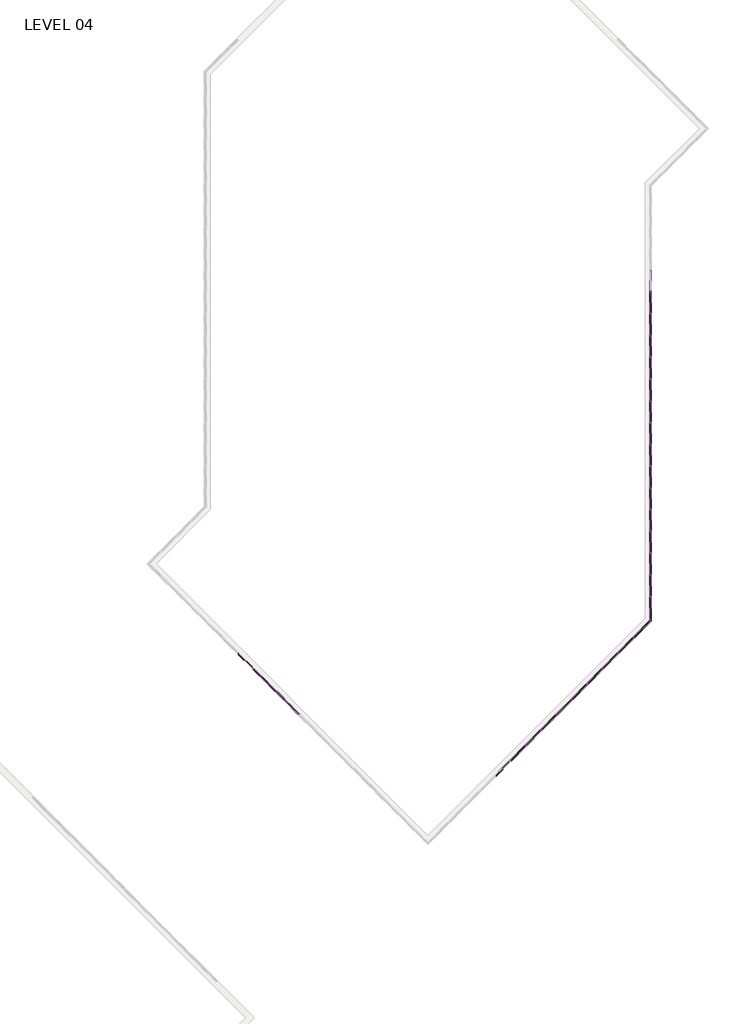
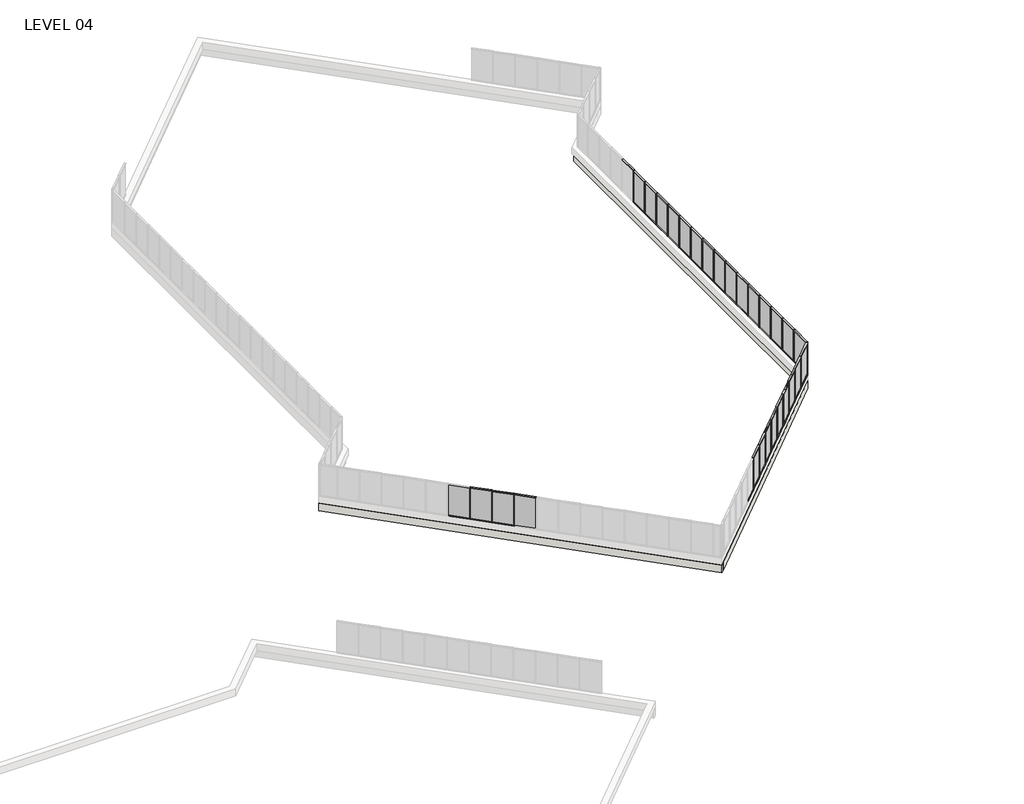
# One storey, part 11 of 17: 85 members, 28 plates, 3 walls.
"""IFC4 building model written with IfcOpenShell, lengths in millimetres."""

from ifc_helpers import new_model, si_unit, origin, place, context, project, spatial, faceted_brep, transform, mapped, element, save
from components import member_5247f267, member_e44af9ab, member_800970d4, member_1bd862b2, member_c975838b, member_910c08c9, plate_67294edd, plate_bbcbcabf, plate_3fb62afd, plate_88df3e37

model = new_model("IFC4")

# Units and contexts
model_context = context("Model", 3, world=origin())
ifc_project = project(units=[si_unit("LENGTHUNIT", "METRE", prefix="MILLI")], contexts=[model_context])

# Site, building, storey
site = spatial("IfcSite", under=ifc_project)
building = spatial("IfcBuilding", under=site)
storey = spatial("IfcBuildingStorey", under=building, Name="LEVEL 04", Elevation=12052.3)

# Members
placement = place(None, origin())
member_shape = member_5247f267(model_context)
element("IfcMember", 1, ObjectType="Rectangular Mullion : 2\" x 4.5\" rectangular", at=placement, inside=storey, context=model_context, shape_type="MappedRepresentation", body=[
    mapped(member_shape, transform((92435.9347164, 58305.3675885, 14643.1), x_axis=(0.0, 0.0, 1.0), y_axis=(-1.0, 0.0, 0.0), z_axis=(0.0, -1.0, 0.0))),
])
element("IfcMember", 2, ObjectType="Rectangular Mullion : 2\" x 4.5\" rectangular", at=placement, inside=storey, context=model_context, shape_type="MappedRepresentation", body=[
    mapped(member_shape, transform((92435.9347164, 56781.3675885, 14643.1), x_axis=(0.0, 0.0, 1.0), y_axis=(-1.0, 0.0, 0.0), z_axis=(0.0, -1.0, 0.0))),
])
element("IfcMember", 3, ObjectType="Rectangular Mullion : 2\" x 4.5\" rectangular", at=placement, inside=storey, context=model_context, shape_type="MappedRepresentation", body=[
    mapped(member_shape, transform((92435.9347164, 55257.3675885, 14643.1), x_axis=(0.0, 0.0, 1.0), y_axis=(-1.0, 0.0, 0.0), z_axis=(0.0, -1.0, 0.0))),
])
element("IfcMember", 4, ObjectType="Rectangular Mullion : 2\" x 4.5\" rectangular", at=placement, inside=storey, context=model_context, shape_type="MappedRepresentation", body=[
    mapped(member_shape, transform((92435.9347164, 52209.3675885, 14643.1), x_axis=(0.0, 0.0, 1.0), y_axis=(-1.0, 0.0, 0.0), z_axis=(0.0, -1.0, 0.0))),
])
element("IfcMember", 5, ObjectType="Rectangular Mullion : 2\" x 4.5\" rectangular", at=placement, inside=storey, context=model_context, shape_type="MappedRepresentation", body=[
    mapped(member_shape, transform((92435.9347164, 50685.3675885, 14643.1), x_axis=(0.0, 0.0, 1.0), y_axis=(-1.0, 0.0, 0.0), z_axis=(0.0, -1.0, 0.0))),
])
element("IfcMember", 6, ObjectType="Rectangular Mullion : 2\" x 4.5\" rectangular", at=placement, inside=storey, context=model_context, shape_type="MappedRepresentation", body=[
    mapped(member_shape, transform((92435.9347164, 47637.3675885, 14643.1), x_axis=(0.0, 0.0, 1.0), y_axis=(-1.0, 0.0, 0.0), z_axis=(0.0, -1.0, 0.0))),
])
element("IfcMember", 7, ObjectType="Rectangular Mullion : 2\" x 4.5\" rectangular", at=placement, inside=storey, context=model_context, shape_type="MappedRepresentation", body=[
    mapped(member_shape, transform((92435.9347164, 43065.3675885, 14643.1), x_axis=(0.0, 0.0, 1.0), y_axis=(-1.0, 0.0, 0.0), z_axis=(0.0, -1.0, 0.0))),
])
element("IfcMember", 8, ObjectType="Rectangular Mullion : 2\" x 4.5\" rectangular", at=placement, inside=storey, context=model_context, shape_type="MappedRepresentation", body=[
    mapped(member_shape, transform((92435.9347164, 41541.3675885, 14643.1), x_axis=(0.0, 0.0, 1.0), y_axis=(-1.0, 0.0, 0.0), z_axis=(0.0, -1.0, 0.0))),
])
element("IfcMember", 9, ObjectType="Rectangular Mullion : 2\" x 4.5\" rectangular", at=placement, inside=storey, context=model_context, shape_type="MappedRepresentation", body=[
    mapped(member_shape, transform((92435.9347164, 59829.3675885, 14643.1), x_axis=(0.0, 0.0, 1.0), y_axis=(-1.0, 0.0, 0.0), z_axis=(0.0, -1.0, 0.0))),
])
element("IfcMember", 10, ObjectType="Rectangular Mullion : 2\" x 4.5\" rectangular", at=placement, inside=storey, context=model_context, shape_type="MappedRepresentation", body=[
    mapped(member_shape, transform((92435.9347164, 61353.3675885, 14643.1), x_axis=(0.0, 0.0, 1.0), y_axis=(-1.0, 0.0, 0.0), z_axis=(0.0, -1.0, 0.0))),
])
element("IfcMember", 11, ObjectType="Rectangular Mullion : 2\" x 4.5\" rectangular", at=placement, inside=storey, context=model_context, shape_type="MappedRepresentation", body=[
    mapped(member_shape, transform((92435.9347164, 49161.3675885, 14643.1), x_axis=(0.0, 0.0, 1.0), y_axis=(-1.0, 0.0, 0.0), z_axis=(0.0, -1.0, 0.0))),
])
element("IfcMember", 12, ObjectType="Rectangular Mullion : 2\" x 4.5\" rectangular", at=placement, inside=storey, context=model_context, shape_type="MappedRepresentation", body=[
    mapped(member_shape, transform((92435.9347164, 53733.3675885, 14643.1), x_axis=(0.0, 0.0, 1.0), y_axis=(-1.0, 0.0, 0.0), z_axis=(0.0, -1.0, 0.0))),
])
element("IfcMember", 13, ObjectType="Rectangular Mullion : 2\" x 4.5\" rectangular", at=placement, inside=storey, context=model_context, shape_type="MappedRepresentation", body=[
    mapped(member_shape, transform((92435.9347164, 46113.3675885, 14643.1), x_axis=(0.0, 0.0, 1.0), y_axis=(-1.0, 0.0, 0.0), z_axis=(0.0, -1.0, 0.0))),
])
element("IfcMember", 14, ObjectType="Rectangular Mullion : 2\" x 4.5\" rectangular", at=placement, inside=storey, context=model_context, shape_type="MappedRepresentation", body=[
    mapped(member_shape, transform((92435.9347164, 44589.3675885, 14643.1), x_axis=(0.0, 0.0, 1.0), y_axis=(-1.0, 0.0, 0.0), z_axis=(0.0, -1.0, 0.0))),
])
element("IfcMember", 15, ObjectType="Rectangular Mullion : 2\" x 4.5\" rectangular", at=placement, inside=storey, context=model_context, shape_type="MappedRepresentation", body=[
    mapped(member_shape, transform((92435.9347164, 40017.3675885, 14643.1), x_axis=(0.0, 0.0, 1.0), y_axis=(-1.0, 0.0, 0.0), z_axis=(0.0, -1.0, 0.0))),
])
element("IfcMember", 16, ObjectType="Rectangular Mullion : 2\" x 4.5\" rectangular", at=placement, inside=storey, context=model_context, shape_type="MappedRepresentation", body=[
    mapped(member_shape, transform((90181.6405, 36047.9672365, 14643.1), x_axis=(0.0, 0.0, 1.0), y_axis=(-0.7071067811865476, 0.7071067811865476, 0.0), z_axis=(-0.7071067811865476, -0.7071067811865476, 0.0))),
])
element("IfcMember", 17, ObjectType="Rectangular Mullion : 2\" x 4.5\" rectangular", at=placement, inside=storey, context=model_context, shape_type="MappedRepresentation", body=[
    mapped(member_shape, transform((89104.0097655, 34970.336502, 14643.1), x_axis=(0.0, 0.0, 1.0), y_axis=(-0.7071067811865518, 0.7071067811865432, 0.0), z_axis=(-0.7071067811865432, -0.7071067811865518, 0.0))),
])
element("IfcMember", 18, ObjectType="Rectangular Mullion : 2\" x 4.5\" rectangular", at=placement, inside=storey, context=model_context, shape_type="MappedRepresentation", body=[
    mapped(member_shape, transform((88026.379031, 33892.7057675, 14643.1), x_axis=(0.0, 0.0, 1.0), y_axis=(-0.707106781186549, 0.7071067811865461, 0.0), z_axis=(-0.7071067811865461, -0.707106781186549, 0.0))),
])
element("IfcMember", 19, ObjectType="Rectangular Mullion : 2\" x 4.5\" rectangular", at=placement, inside=storey, context=model_context, shape_type="MappedRepresentation", body=[
    mapped(member_shape, transform((85871.1175619, 31737.4442984, 14643.1), x_axis=(0.0, 0.0, 1.0), y_axis=(-0.7071067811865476, 0.7071067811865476, 0.0), z_axis=(-0.7071067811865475, -0.7071067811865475, 0.0))),
])
element("IfcMember", 20, ObjectType="Rectangular Mullion : 2\" x 4.5\" rectangular", at=placement, inside=storey, context=model_context, shape_type="MappedRepresentation", body=[
    mapped(member_shape, transform((84793.4868274, 30659.8135639, 14643.1), x_axis=(0.0, 0.0, 1.0), y_axis=(-0.7071067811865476, 0.7071067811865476, 0.0), z_axis=(-0.7071067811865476, -0.7071067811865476, 0.0))),
])
element("IfcMember", 21, ObjectType="Rectangular Mullion : 2\" x 4.5\" rectangular", at=placement, inside=storey, context=model_context, shape_type="MappedRepresentation", body=[
    mapped(member_shape, transform((83715.8560929, 29582.1828294, 14643.1), x_axis=(0.0, 0.0, 1.0), y_axis=(-0.7071067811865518, 0.7071067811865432, 0.0), z_axis=(-0.7071067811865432, -0.7071067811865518, 0.0))),
])
element("IfcMember", 22, ObjectType="Rectangular Mullion : 2\" x 4.5\" rectangular", at=placement, inside=storey, context=model_context, shape_type="MappedRepresentation", body=[
    mapped(member_shape, transform((86948.7482965, 32815.0750329, 14643.1), x_axis=(0.0, 0.0, 1.0), y_axis=(-0.7071067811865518, 0.7071067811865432, 0.0), z_axis=(-0.7071067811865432, -0.7071067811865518, 0.0))),
])
element("IfcMember", 23, ObjectType="Rectangular Mullion : 2\" x 4.5\" rectangular", at=placement, inside=storey, context=model_context, shape_type="MappedRepresentation", body=[
    mapped(member_shape, transform((82638.2253583, 28504.5520948, 14643.1), x_axis=(0.0, 0.0, 1.0), y_axis=(-0.7071067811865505, 0.7071067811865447, 0.0), z_axis=(-0.7071067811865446, -0.7071067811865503, 0.0))),
])
element("IfcMember", 24, ObjectType="Rectangular Mullion : 2\" x 4.5\" rectangular", at=placement, inside=storey, context=model_context, shape_type="MappedRepresentation", body=[
    mapped(member_shape, transform((64631.8093644, 34934.2368049, 14643.1), x_axis=(0.0, 0.0, 1.0), y_axis=(0.7071067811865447, 0.7071067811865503, 0.0), z_axis=(-0.7071067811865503, 0.7071067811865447, 0.0))),
])
element("IfcMember", 25, ObjectType="Rectangular Mullion : 2\" x 4.5\" rectangular", at=placement, inside=storey, context=model_context, shape_type="MappedRepresentation", body=[
    mapped(member_shape, transform((92435.9347164, 58254.5675885, 12052.3), x_axis=(0.0, 0.0, -1.0), y_axis=(-1.0, 0.0, 0.0), z_axis=(0.0, 1.0, 0.0))),
])
element("IfcMember", 26, ObjectType="Rectangular Mullion : 2\" x 4.5\" rectangular", at=placement, inside=storey, context=model_context, shape_type="MappedRepresentation", body=[
    mapped(member_shape, transform((92435.9347164, 56730.5675885, 12052.3), x_axis=(0.0, 0.0, -1.0), y_axis=(-1.0, 0.0, 0.0), z_axis=(0.0, 1.0, 0.0))),
])
element("IfcMember", 27, ObjectType="Rectangular Mullion : 2\" x 4.5\" rectangular", at=placement, inside=storey, context=model_context, shape_type="MappedRepresentation", body=[
    mapped(member_shape, transform((92435.9347164, 55206.5675885, 12052.3), x_axis=(0.0, 0.0, -1.0), y_axis=(-1.0, 0.0, 0.0), z_axis=(0.0, 1.0, 0.0))),
])
element("IfcMember", 28, ObjectType="Rectangular Mullion : 2\" x 4.5\" rectangular", at=placement, inside=storey, context=model_context, shape_type="MappedRepresentation", body=[
    mapped(member_shape, transform((92435.9347164, 52158.5675885, 12052.3), x_axis=(0.0, 0.0, -1.0), y_axis=(-1.0, 0.0, 0.0), z_axis=(0.0, 1.0, 0.0))),
])
element("IfcMember", 29, ObjectType="Rectangular Mullion : 2\" x 4.5\" rectangular", at=placement, inside=storey, context=model_context, shape_type="MappedRepresentation", body=[
    mapped(member_shape, transform((92435.9347164, 50634.5675885, 12052.3), x_axis=(0.0, 0.0, -1.0), y_axis=(-1.0, 0.0, 0.0), z_axis=(0.0, 1.0, 0.0))),
])
element("IfcMember", 30, ObjectType="Rectangular Mullion : 2\" x 4.5\" rectangular", at=placement, inside=storey, context=model_context, shape_type="MappedRepresentation", body=[
    mapped(member_shape, transform((92435.9347164, 47586.5675885, 12052.3), x_axis=(0.0, 0.0, -1.0), y_axis=(-1.0, 0.0, 0.0), z_axis=(0.0, 1.0, 0.0))),
])
element("IfcMember", 31, ObjectType="Rectangular Mullion : 2\" x 4.5\" rectangular", at=placement, inside=storey, context=model_context, shape_type="MappedRepresentation", body=[
    mapped(member_shape, transform((92435.9347164, 43014.5675885, 12052.3), x_axis=(0.0, 0.0, -1.0), y_axis=(-1.0, 0.0, 0.0), z_axis=(0.0, 1.0, 0.0))),
])
element("IfcMember", 32, ObjectType="Rectangular Mullion : 2\" x 4.5\" rectangular", at=placement, inside=storey, context=model_context, shape_type="MappedRepresentation", body=[
    mapped(member_shape, transform((92435.9347164, 41490.5675885, 12052.3), x_axis=(0.0, 0.0, -1.0), y_axis=(-1.0, 0.0, 0.0), z_axis=(0.0, 1.0, 0.0))),
])
element("IfcMember", 33, ObjectType="Rectangular Mullion : 2\" x 4.5\" rectangular", at=placement, inside=storey, context=model_context, shape_type="MappedRepresentation", body=[
    mapped(member_shape, transform((92435.9347164, 59778.5675885, 12052.3), x_axis=(0.0, 0.0, -1.0), y_axis=(-1.0, 0.0, 0.0), z_axis=(0.0, 1.0, 0.0))),
])
element("IfcMember", 34, ObjectType="Rectangular Mullion : 2\" x 4.5\" rectangular", at=placement, inside=storey, context=model_context, shape_type="MappedRepresentation", body=[
    mapped(member_shape, transform((92435.9347164, 61302.5675885, 12052.3), x_axis=(0.0, 0.0, -1.0), y_axis=(-1.0, 0.0, 0.0), z_axis=(0.0, 1.0, 0.0))),
])
element("IfcMember", 35, ObjectType="Rectangular Mullion : 2\" x 4.5\" rectangular", at=placement, inside=storey, context=model_context, shape_type="MappedRepresentation", body=[
    mapped(member_shape, transform((92435.9347164, 49110.5675885, 12052.3), x_axis=(0.0, 0.0, -1.0), y_axis=(-1.0, 0.0, 0.0), z_axis=(0.0, 1.0, 0.0))),
])
element("IfcMember", 36, ObjectType="Rectangular Mullion : 2\" x 4.5\" rectangular", at=placement, inside=storey, context=model_context, shape_type="MappedRepresentation", body=[
    mapped(member_shape, transform((92435.9347164, 53682.5675885, 12052.3), x_axis=(0.0, 0.0, -1.0), y_axis=(-1.0, 0.0, 0.0), z_axis=(0.0, 1.0, 0.0))),
])
element("IfcMember", 37, ObjectType="Rectangular Mullion : 2\" x 4.5\" rectangular", at=placement, inside=storey, context=model_context, shape_type="MappedRepresentation", body=[
    mapped(member_shape, transform((92435.9347164, 46062.5675885, 12052.3), x_axis=(0.0, 0.0, -1.0), y_axis=(-1.0, 0.0, 0.0), z_axis=(0.0, 1.0, 0.0))),
])
element("IfcMember", 38, ObjectType="Rectangular Mullion : 2\" x 4.5\" rectangular", at=placement, inside=storey, context=model_context, shape_type="MappedRepresentation", body=[
    mapped(member_shape, transform((92435.9347164, 44538.5675885, 12052.3), x_axis=(0.0, 0.0, -1.0), y_axis=(-1.0, 0.0, 0.0), z_axis=(0.0, 1.0, 0.0))),
])
element("IfcMember", 39, ObjectType="Rectangular Mullion : 2\" x 4.5\" rectangular", at=placement, inside=storey, context=model_context, shape_type="MappedRepresentation", body=[
    mapped(member_shape, transform((91223.3502101, 37089.6769466, 12052.3), x_axis=(0.0, 0.0, -1.0), y_axis=(-0.7071067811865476, 0.7071067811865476, 0.0), z_axis=(0.7071067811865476, 0.7071067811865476, 0.0))),
])
element("IfcMember", 40, ObjectType="Rectangular Mullion : 2\" x 4.5\" rectangular", at=placement, inside=storey, context=model_context, shape_type="MappedRepresentation", body=[
    mapped(member_shape, transform((90145.7194756, 36012.046212, 12052.3), x_axis=(0.0, 0.0, -1.0), y_axis=(-0.7071067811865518, 0.7071067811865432, 0.0), z_axis=(0.7071067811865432, 0.7071067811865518, 0.0))),
])
element("IfcMember", 41, ObjectType="Rectangular Mullion : 2\" x 4.5\" rectangular", at=placement, inside=storey, context=model_context, shape_type="MappedRepresentation", body=[
    mapped(member_shape, transform((89068.088741, 34934.4154775, 12052.3), x_axis=(0.0, 0.0, -1.0), y_axis=(-0.707106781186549, 0.7071067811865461, 0.0), z_axis=(0.7071067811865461, 0.707106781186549, 0.0))),
])
element("IfcMember", 42, ObjectType="Rectangular Mullion : 2\" x 4.5\" rectangular", at=placement, inside=storey, context=model_context, shape_type="MappedRepresentation", body=[
    mapped(member_shape, transform((87990.4580065, 33856.784743, 12052.3), x_axis=(0.0, 0.0, -1.0), y_axis=(-0.7071067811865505, 0.7071067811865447, 0.0), z_axis=(0.7071067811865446, 0.7071067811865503, 0.0))),
])
element("IfcMember", 43, ObjectType="Rectangular Mullion : 2\" x 4.5\" rectangular", at=placement, inside=storey, context=model_context, shape_type="MappedRepresentation", body=[
    mapped(member_shape, transform((85835.1965374, 31701.5232739, 12052.3), x_axis=(0.0, 0.0, -1.0), y_axis=(-0.7071067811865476, 0.7071067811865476, 0.0), z_axis=(0.7071067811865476, 0.7071067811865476, 0.0))),
])
element("IfcMember", 44, ObjectType="Rectangular Mullion : 2\" x 4.5\" rectangular", at=placement, inside=storey, context=model_context, shape_type="MappedRepresentation", body=[
    mapped(member_shape, transform((84757.5658029, 30623.8925394, 12052.3), x_axis=(0.0, 0.0, -1.0), y_axis=(-0.7071067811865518, 0.7071067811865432, 0.0), z_axis=(0.7071067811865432, 0.7071067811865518, 0.0))),
])
element("IfcMember", 45, ObjectType="Rectangular Mullion : 2\" x 4.5\" rectangular", at=placement, inside=storey, context=model_context, shape_type="MappedRepresentation", body=[
    mapped(member_shape, transform((83679.9350684, 29546.2618049, 12052.3), x_axis=(0.0, 0.0, -1.0), y_axis=(-0.7071067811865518, 0.7071067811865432, 0.0), z_axis=(0.7071067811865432, 0.7071067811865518, 0.0))),
])
element("IfcMember", 46, ObjectType="Rectangular Mullion : 2\" x 4.5\" rectangular", at=placement, inside=storey, context=model_context, shape_type="MappedRepresentation", body=[
    mapped(member_shape, transform((86912.827272, 32779.1540085, 12052.3), x_axis=(0.0, 0.0, -1.0), y_axis=(-0.7071067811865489, 0.7071067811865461, 0.0), z_axis=(0.7071067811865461, 0.7071067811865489, 0.0))),
])
element("IfcMember", 47, ObjectType="Rectangular Mullion : 2\" x 4.5\" rectangular", at=placement, inside=storey, context=model_context, shape_type="MappedRepresentation", body=[
    mapped(member_shape, transform((82602.3043339, 28468.6310704, 12052.3), x_axis=(0.0, 0.0, -1.0), y_axis=(-0.7071067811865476, 0.7071067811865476, 0.0), z_axis=(0.7071067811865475, 0.7071067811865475, 0.0))),
])
element("IfcMember", 48, ObjectType="Rectangular Mullion : 2\" x 4.5\" rectangular", at=placement, inside=storey, context=model_context, shape_type="MappedRepresentation", body=[
    mapped(member_shape, transform((65673.5190745, 33892.5270948, 12052.3), x_axis=(0.0, 0.0, -1.0), y_axis=(0.7071067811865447, 0.7071067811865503, 0.0), z_axis=(0.7071067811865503, -0.7071067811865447, 0.0))),
])
element("IfcMember", 49, ObjectType="Rectangular Mullion : 2\" x 4.5\" rectangular", at=placement, inside=storey, context=model_context, shape_type="MappedRepresentation", body=[
    mapped(member_shape, transform((64595.8883399, 34970.1578294, 12052.3), x_axis=(0.0, 0.0, -1.0), y_axis=(0.7071067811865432, 0.7071067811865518, 0.0), z_axis=(0.7071067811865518, -0.7071067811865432, 0.0))),
])
member_2_shape = member_e44af9ab(model_context)
element("IfcMember", 50, ObjectType="Rectangular Mullion : 2\" x 4.5\" rectangular", at=placement, inside=storey, context=model_context, shape_type="MappedRepresentation", body=[
    mapped(member_2_shape, transform((92435.9347164, 58279.9675885, 12052.3), x_axis=(0.0, -1.0, 0.0), y_axis=(-1.0, 0.0, 0.0), z_axis=(0.0, 0.0, -1.0))),
])
element("IfcMember", 51, ObjectType="Rectangular Mullion : 2\" x 4.5\" rectangular", at=placement, inside=storey, context=model_context, shape_type="MappedRepresentation", body=[
    mapped(member_2_shape, transform((92435.9347164, 56755.9675885, 12052.3), x_axis=(0.0, -1.0, 0.0), y_axis=(-1.0, 0.0, 0.0), z_axis=(0.0, 0.0, -1.0))),
])
element("IfcMember", 52, ObjectType="Rectangular Mullion : 2\" x 4.5\" rectangular", at=placement, inside=storey, context=model_context, shape_type="MappedRepresentation", body=[
    mapped(member_2_shape, transform((92435.9347164, 55231.9675885, 12052.3), x_axis=(0.0, -1.0, 0.0), y_axis=(-1.0, 0.0, 0.0), z_axis=(0.0, 0.0, -1.0))),
])
element("IfcMember", 53, ObjectType="Rectangular Mullion : 2\" x 4.5\" rectangular", at=placement, inside=storey, context=model_context, shape_type="MappedRepresentation", body=[
    mapped(member_2_shape, transform((92435.9347164, 52183.9675885, 12052.3), x_axis=(0.0, -1.0, 0.0), y_axis=(-1.0, 0.0, 0.0), z_axis=(0.0, 0.0, -1.0))),
])
element("IfcMember", 54, ObjectType="Rectangular Mullion : 2\" x 4.5\" rectangular", at=placement, inside=storey, context=model_context, shape_type="MappedRepresentation", body=[
    mapped(member_2_shape, transform((92435.9347164, 50659.9675885, 12052.3), x_axis=(0.0, -1.0, 0.0), y_axis=(-1.0, 0.0, 0.0), z_axis=(0.0, 0.0, -1.0))),
])
element("IfcMember", 55, ObjectType="Rectangular Mullion : 2\" x 4.5\" rectangular", at=placement, inside=storey, context=model_context, shape_type="MappedRepresentation", body=[
    mapped(member_2_shape, transform((92435.9347164, 47611.9675885, 12052.3), x_axis=(0.0, -1.0, 0.0), y_axis=(-1.0, 0.0, 0.0), z_axis=(0.0, 0.0, -1.0))),
])
element("IfcMember", 56, ObjectType="Rectangular Mullion : 2\" x 4.5\" rectangular", at=placement, inside=storey, context=model_context, shape_type="MappedRepresentation", body=[
    mapped(member_2_shape, transform((92435.9347164, 43039.9675885, 12052.3), x_axis=(0.0, -1.0, 0.0), y_axis=(-1.0, 0.0, 0.0), z_axis=(0.0, 0.0, -1.0))),
])
element("IfcMember", 57, ObjectType="Rectangular Mullion : 2\" x 4.5\" rectangular", at=placement, inside=storey, context=model_context, shape_type="MappedRepresentation", body=[
    mapped(member_2_shape, transform((92435.9347164, 41515.9675885, 12052.3), x_axis=(0.0, -1.0, 0.0), y_axis=(-1.0, 0.0, 0.0), z_axis=(0.0, 0.0, -1.0))),
])
element("IfcMember", 58, ObjectType="Rectangular Mullion : 2\" x 4.5\" rectangular", at=placement, inside=storey, context=model_context, shape_type="MappedRepresentation", body=[
    mapped(member_2_shape, transform((92435.9347164, 59803.9675885, 12052.3), x_axis=(0.0, -1.0, 0.0), y_axis=(-1.0, 0.0, 0.0), z_axis=(0.0, 0.0, -1.0))),
])
element("IfcMember", 59, ObjectType="Rectangular Mullion : 2\" x 4.5\" rectangular", at=placement, inside=storey, context=model_context, shape_type="MappedRepresentation", body=[
    mapped(member_2_shape, transform((92435.9347164, 61327.9675885, 12052.3), x_axis=(0.0, -1.0, 0.0), y_axis=(-1.0, 0.0, 0.0), z_axis=(0.0, 0.0, -1.0))),
])
element("IfcMember", 60, ObjectType="Rectangular Mullion : 2\" x 4.5\" rectangular", at=placement, inside=storey, context=model_context, shape_type="MappedRepresentation", body=[
    mapped(member_2_shape, transform((92435.9347164, 49135.9675885, 12052.3), x_axis=(0.0, -1.0, 0.0), y_axis=(-1.0, 0.0, 0.0), z_axis=(0.0, 0.0, -1.0))),
])
element("IfcMember", 61, ObjectType="Rectangular Mullion : 2\" x 4.5\" rectangular", at=placement, inside=storey, context=model_context, shape_type="MappedRepresentation", body=[
    mapped(member_2_shape, transform((92435.9347164, 53707.9675885, 12052.3), x_axis=(0.0, -1.0, 0.0), y_axis=(-1.0, 0.0, 0.0), z_axis=(0.0, 0.0, -1.0))),
])
element("IfcMember", 62, ObjectType="Rectangular Mullion : 2\" x 4.5\" rectangular", at=placement, inside=storey, context=model_context, shape_type="MappedRepresentation", body=[
    mapped(member_2_shape, transform((92435.9347164, 46087.9675885, 12052.3), x_axis=(0.0, -1.0, 0.0), y_axis=(-1.0, 0.0, 0.0), z_axis=(0.0, 0.0, -1.0))),
])
element("IfcMember", 63, ObjectType="Rectangular Mullion : 2\" x 4.5\" rectangular", at=placement, inside=storey, context=model_context, shape_type="MappedRepresentation", body=[
    mapped(member_2_shape, transform((92435.9347164, 44563.9675885, 12052.3), x_axis=(0.0, -1.0, 0.0), y_axis=(-1.0, 0.0, 0.0), z_axis=(0.0, 0.0, -1.0))),
])
element("IfcMember", 64, ObjectType="Rectangular Mullion : 2\" x 4.5\" rectangular", at=placement, inside=storey, context=model_context, shape_type="MappedRepresentation", body=[
    mapped(member_2_shape, transform((92435.9347164, 39991.9675885, 12052.3), x_axis=(0.0, -1.0, 0.0), y_axis=(-1.0, 0.0, 0.0), z_axis=(0.0, 0.0, -1.0))),
])
element("IfcMember", 65, ObjectType="Rectangular Mullion : 2\" x 4.5\" rectangular", at=placement, inside=storey, context=model_context, shape_type="MappedRepresentation", body=[
    mapped(member_2_shape, transform((91241.3107223, 37107.6374588, 12052.3), x_axis=(-0.7071067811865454, -0.7071067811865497, 0.0), y_axis=(-0.7071067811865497, 0.7071067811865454, 0.0), z_axis=(0.0, 0.0, -1.0))),
])
element("IfcMember", 66, ObjectType="Rectangular Mullion : 2\" x 4.5\" rectangular", at=placement, inside=storey, context=model_context, shape_type="MappedRepresentation", body=[
    mapped(member_2_shape, transform((90163.6799878, 36030.0067243, 12052.3), x_axis=(-0.7071067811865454, -0.7071067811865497, 0.0), y_axis=(-0.7071067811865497, 0.7071067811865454, 0.0), z_axis=(0.0, 0.0, -1.0))),
])
element("IfcMember", 67, ObjectType="Rectangular Mullion : 2\" x 4.5\" rectangular", at=placement, inside=storey, context=model_context, shape_type="MappedRepresentation", body=[
    mapped(member_2_shape, transform((89086.0492533, 34952.3759898, 12052.3), x_axis=(-0.7071067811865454, -0.7071067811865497, 0.0), y_axis=(-0.7071067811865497, 0.7071067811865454, 0.0), z_axis=(0.0, 0.0, -1.0))),
])
element("IfcMember", 68, ObjectType="Rectangular Mullion : 2\" x 4.5\" rectangular", at=placement, inside=storey, context=model_context, shape_type="MappedRepresentation", body=[
    mapped(member_2_shape, transform((88008.4185187, 33874.7452552, 12052.3), x_axis=(-0.7071067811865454, -0.7071067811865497, 0.0), y_axis=(-0.7071067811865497, 0.7071067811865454, 0.0), z_axis=(0.0, 0.0, -1.0))),
])
element("IfcMember", 69, ObjectType="Rectangular Mullion : 2\" x 4.5\" rectangular", at=placement, inside=storey, context=model_context, shape_type="MappedRepresentation", body=[
    mapped(member_2_shape, transform((85853.1570497, 31719.4837862, 12052.3), x_axis=(-0.7071067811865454, -0.7071067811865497, 0.0), y_axis=(-0.7071067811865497, 0.7071067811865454, 0.0), z_axis=(0.0, 0.0, -1.0))),
])
element("IfcMember", 70, ObjectType="Rectangular Mullion : 2\" x 4.5\" rectangular", at=placement, inside=storey, context=model_context, shape_type="MappedRepresentation", body=[
    mapped(member_2_shape, transform((84775.5263152, 30641.8530517, 12052.3), x_axis=(-0.7071067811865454, -0.7071067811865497, 0.0), y_axis=(-0.7071067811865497, 0.7071067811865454, 0.0), z_axis=(0.0, 0.0, -1.0))),
])
element("IfcMember", 71, ObjectType="Rectangular Mullion : 2\" x 4.5\" rectangular", at=placement, inside=storey, context=model_context, shape_type="MappedRepresentation", body=[
    mapped(member_2_shape, transform((83697.8955806, 29564.2223171, 12052.3), x_axis=(-0.7071067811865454, -0.7071067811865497, 0.0), y_axis=(-0.7071067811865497, 0.7071067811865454, 0.0), z_axis=(0.0, 0.0, -1.0))),
])
element("IfcMember", 72, ObjectType="Rectangular Mullion : 2\" x 4.5\" rectangular", at=placement, inside=storey, context=model_context, shape_type="MappedRepresentation", body=[
    mapped(member_2_shape, transform((86930.7877842, 32797.1145207, 12052.3), x_axis=(-0.7071067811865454, -0.7071067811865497, 0.0), y_axis=(-0.7071067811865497, 0.7071067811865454, 0.0), z_axis=(0.0, 0.0, -1.0))),
])
element("IfcMember", 73, ObjectType="Rectangular Mullion : 2\" x 4.5\" rectangular", at=placement, inside=storey, context=model_context, shape_type="MappedRepresentation", body=[
    mapped(member_2_shape, transform((82620.2648461, 28486.5915826, 12052.3), x_axis=(-0.7071067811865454, -0.7071067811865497, 0.0), y_axis=(-0.7071067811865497, 0.7071067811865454, 0.0), z_axis=(0.0, 0.0, -1.0))),
])
element("IfcMember", 74, ObjectType="Rectangular Mullion : 2\" x 4.5\" rectangular", at=placement, inside=storey, context=model_context, shape_type="MappedRepresentation", body=[
    mapped(member_2_shape, transform((65691.4795867, 33874.5665826, 12052.3), x_axis=(-0.7071067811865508, 0.7071067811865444, 0.0), y_axis=(0.7071067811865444, 0.7071067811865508, 0.0), z_axis=(0.0, 0.0, -1.0))),
])
element("IfcMember", 75, ObjectType="Rectangular Mullion : 2\" x 4.5\" rectangular", at=placement, inside=storey, context=model_context, shape_type="MappedRepresentation", body=[
    mapped(member_2_shape, transform((64613.8488522, 34952.1973171, 12052.3), x_axis=(-0.7071067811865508, 0.7071067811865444, 0.0), y_axis=(0.7071067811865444, 0.7071067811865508, 0.0), z_axis=(0.0, 0.0, -1.0))),
])
element("IfcMember", 76, ObjectType="Rectangular Mullion : 2\" x 4.5\" rectangular", at=placement, inside=storey, context=model_context, shape_type="MappedRepresentation", body=[
    mapped(member_2_shape, transform((66768.9316486, 32797.1145207, 12052.3), x_axis=(-0.7071067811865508, 0.7071067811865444, 0.0), y_axis=(0.7071067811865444, 0.7071067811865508, 0.0), z_axis=(0.0, 0.0, -1.0))),
])
member_3_shape = member_800970d4(model_context)
element("IfcMember", 77, ObjectType="Rectangular Mullion : 2\" x 4.5\" rectangular", at=placement, inside=storey, context=model_context, shape_type="MappedRepresentation", body=[
    mapped(member_3_shape, transform((92435.9347164, 38302.2614529, 12052.3), x_axis=(0.0, -1.0, 0.0), y_axis=(-1.0, 0.0, 0.0), z_axis=(0.0, 0.0, -1.0))),
])
element("IfcMember", 78, ObjectType="Rectangular Mullion : 2\" x 4.5\" rectangular", at=placement, inside=storey, context=model_context, shape_type="MappedRepresentation", body=[
    mapped(member_3_shape, transform((92435.9347164, 38302.2614529, 14643.1), x_axis=(0.7071067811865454, 0.7071067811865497, 0.0), y_axis=(-0.7071067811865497, 0.7071067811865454, 0.0), z_axis=(0.0, 0.0, 1.0))),
])
member_4_shape = member_1bd862b2(model_context)
element("IfcMember", 79, ObjectType="Rectangular Mullion : 2\" x 4.5\" rectangular", at=placement, inside=storey, context=model_context, shape_type="MappedRepresentation", body=[
    mapped(member_4_shape, transform((92435.9347164, 39966.5675885, 12052.3), x_axis=(0.0, 0.0, -1.0), y_axis=(-1.0, 0.0, 0.0), z_axis=(0.0, 1.0, 0.0))),
])
element("IfcMember", 80, ObjectType="Rectangular Mullion : 2\" x 4.5\" rectangular", at=placement, inside=storey, context=model_context, shape_type="MappedRepresentation", body=[
    mapped(member_4_shape, transform((92435.9347164, 38353.0614529, 14643.1), x_axis=(0.0, 0.0, 1.0), y_axis=(-1.0, 0.0, 0.0), z_axis=(0.0, -1.0, 0.0))),
])
member_5_shape = member_c975838b(model_context)
element("IfcMember", 81, ObjectType="Rectangular Mullion : 2\" x 4.5\" rectangular", at=placement, inside=storey, context=model_context, shape_type="MappedRepresentation", body=[
    mapped(member_5_shape, transform((92400.0136919, 38266.3404284, 12052.3), x_axis=(0.0, 0.0, -1.0), y_axis=(-0.7071067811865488, 0.7071067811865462, 0.0), z_axis=(0.7071067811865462, 0.7071067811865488, 0.0))),
])
element("IfcMember", 82, ObjectType="Rectangular Mullion : 2\" x 4.5\" rectangular", at=placement, inside=storey, context=model_context, shape_type="MappedRepresentation", body=[
    mapped(member_5_shape, transform((91259.2712346, 37125.5979711, 14643.1), x_axis=(0.0, 0.0, 1.0), y_axis=(-0.7071067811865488, 0.7071067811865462, 0.0), z_axis=(-0.7071067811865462, -0.7071067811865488, 0.0))),
])
member_6_shape = member_910c08c9(model_context)
element("IfcMember", 83, ObjectType="Rectangular Mullion : 2\" x 4.5\" rectangular", at=placement, inside=storey, context=model_context, shape_type="MappedRepresentation", body=[
    mapped(member_6_shape, transform((65709.4400989, 33856.6060704, 14643.1), x_axis=(0.0, 0.0, 1.0), y_axis=(0.7071067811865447, 0.7071067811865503, 0.0), z_axis=(-0.7071067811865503, 0.7071067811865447, 0.0))),
])
element("IfcMember", 84, ObjectType="Rectangular Mullion : 2\" x 4.5\" rectangular", at=placement, inside=storey, context=model_context, shape_type="MappedRepresentation", body=[
    mapped(member_6_shape, transform((66786.8921608, 32779.1540085, 14643.1), x_axis=(0.0, 0.0, 1.0), y_axis=(0.7071067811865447, 0.7071067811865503, 0.0), z_axis=(-0.7071067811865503, 0.7071067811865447, 0.0))),
])
element("IfcMember", 85, ObjectType="Rectangular Mullion : 2\" x 4.5\" rectangular", at=placement, inside=storey, context=model_context, shape_type="MappedRepresentation", body=[
    mapped(member_6_shape, transform((66750.9711363, 32815.0750329, 12052.3), x_axis=(0.0, 0.0, -1.0), y_axis=(0.7071067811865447, 0.7071067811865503, 0.0), z_axis=(0.7071067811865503, -0.7071067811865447, 0.0))),
])

# Plates
plate_shape = plate_67294edd(model_context)
element("IfcPlate", 86, ObjectType="System Panel : 1/4\" Glass", at=placement, inside=storey, context=model_context, shape_type="MappedRepresentation", body=[
    mapped(plate_shape, transform((92435.9347164, 57517.9675885, 12103.1), x_axis=(0.0, -1.0, 0.0), y_axis=(1.0, 0.0, 0.0), z_axis=(0.0, 0.0, 1.0))),
])
element("IfcPlate", 87, ObjectType="System Panel : 1/4\" Glass", at=placement, inside=storey, context=model_context, shape_type="MappedRepresentation", body=[
    mapped(plate_shape, transform((92435.9347164, 55993.9675885, 12103.1), x_axis=(0.0, -1.0, 0.0), y_axis=(1.0, 0.0, 0.0), z_axis=(0.0, 0.0, 1.0))),
])
element("IfcPlate", 88, ObjectType="System Panel : 1/4\" Glass", at=placement, inside=storey, context=model_context, shape_type="MappedRepresentation", body=[
    mapped(plate_shape, transform((92435.9347164, 54469.9675885, 12103.1), x_axis=(0.0, -1.0, 0.0), y_axis=(1.0, 0.0, 0.0), z_axis=(0.0, 0.0, 1.0))),
])
element("IfcPlate", 89, ObjectType="System Panel : 1/4\" Glass", at=placement, inside=storey, context=model_context, shape_type="MappedRepresentation", body=[
    mapped(plate_shape, transform((92435.9347164, 51421.9675885, 12103.1), x_axis=(0.0, -1.0, 0.0), y_axis=(1.0, 0.0, 0.0), z_axis=(0.0, 0.0, 1.0))),
])
element("IfcPlate", 90, ObjectType="System Panel : 1/4\" Glass", at=placement, inside=storey, context=model_context, shape_type="MappedRepresentation", body=[
    mapped(plate_shape, transform((92435.9347164, 49897.9675885, 12103.1), x_axis=(0.0, -1.0, 0.0), y_axis=(1.0, 0.0, 0.0), z_axis=(0.0, 0.0, 1.0))),
])
element("IfcPlate", 91, ObjectType="System Panel : 1/4\" Glass", at=placement, inside=storey, context=model_context, shape_type="MappedRepresentation", body=[
    mapped(plate_shape, transform((92435.9347164, 46849.9675885, 12103.1), x_axis=(0.0, -1.0, 0.0), y_axis=(1.0, 0.0, 0.0), z_axis=(0.0, 0.0, 1.0))),
])
element("IfcPlate", 92, ObjectType="System Panel : 1/4\" Glass", at=placement, inside=storey, context=model_context, shape_type="MappedRepresentation", body=[
    mapped(plate_shape, transform((92435.9347164, 42277.9675885, 12103.1), x_axis=(0.0, -1.0, 0.0), y_axis=(1.0, 0.0, 0.0), z_axis=(0.0, 0.0, 1.0))),
])
element("IfcPlate", 93, ObjectType="System Panel : 1/4\" Glass", at=placement, inside=storey, context=model_context, shape_type="MappedRepresentation", body=[
    mapped(plate_shape, transform((92435.9347164, 40753.9675885, 12103.1), x_axis=(0.0, -1.0, 0.0), y_axis=(1.0, 0.0, 0.0), z_axis=(0.0, 0.0, 1.0))),
])
element("IfcPlate", 94, ObjectType="System Panel : 1/4\" Glass", at=placement, inside=storey, context=model_context, shape_type="MappedRepresentation", body=[
    mapped(plate_shape, transform((92435.9347164, 59041.9675885, 12103.1), x_axis=(0.0, -1.0, 0.0), y_axis=(1.0, 0.0, 0.0), z_axis=(0.0, 0.0, 1.0))),
])
element("IfcPlate", 95, ObjectType="System Panel : 1/4\" Glass", at=placement, inside=storey, context=model_context, shape_type="MappedRepresentation", body=[
    mapped(plate_shape, transform((92435.9347164, 60565.9675885, 12103.1), x_axis=(0.0, -1.0, 0.0), y_axis=(1.0, 0.0, 0.0), z_axis=(0.0, 0.0, 1.0))),
])
element("IfcPlate", 96, ObjectType="System Panel : 1/4\" Glass", at=placement, inside=storey, context=model_context, shape_type="MappedRepresentation", body=[
    mapped(plate_shape, transform((92435.9347164, 48373.9675885, 12103.1), x_axis=(0.0, -1.0, 0.0), y_axis=(1.0, 0.0, 0.0), z_axis=(0.0, 0.0, 1.0))),
])
element("IfcPlate", 97, ObjectType="System Panel : 1/4\" Glass", at=placement, inside=storey, context=model_context, shape_type="MappedRepresentation", body=[
    mapped(plate_shape, transform((92435.9347164, 52945.9675885, 12103.1), x_axis=(0.0, -1.0, 0.0), y_axis=(1.0, 0.0, 0.0), z_axis=(0.0, 0.0, 1.0))),
])
element("IfcPlate", 98, ObjectType="System Panel : 1/4\" Glass", at=placement, inside=storey, context=model_context, shape_type="MappedRepresentation", body=[
    mapped(plate_shape, transform((92435.9347164, 45325.9675885, 12103.1), x_axis=(0.0, -1.0, 0.0), y_axis=(1.0, 0.0, 0.0), z_axis=(0.0, 0.0, 1.0))),
])
element("IfcPlate", 99, ObjectType="System Panel : 1/4\" Glass", at=placement, inside=storey, context=model_context, shape_type="MappedRepresentation", body=[
    mapped(plate_shape, transform((92435.9347164, 43801.9675885, 12103.1), x_axis=(0.0, -1.0, 0.0), y_axis=(1.0, 0.0, 0.0), z_axis=(0.0, 0.0, 1.0))),
])
element("IfcPlate", 100, ObjectType="System Panel : 1/4\" Glass", at=placement, inside=storey, context=model_context, shape_type="MappedRepresentation", body=[
    mapped(plate_shape, transform((90702.4953551, 36568.8220916, 12103.1), x_axis=(-0.7071067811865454, -0.7071067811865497, 0.0), y_axis=(0.7071067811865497, -0.7071067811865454, 0.0), z_axis=(0.0, 0.0, 1.0))),
])
element("IfcPlate", 101, ObjectType="System Panel : 1/4\" Glass", at=placement, inside=storey, context=model_context, shape_type="MappedRepresentation", body=[
    mapped(plate_shape, transform((89624.8646205, 35491.191357, 12103.1), x_axis=(-0.7071067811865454, -0.7071067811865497, 0.0), y_axis=(0.7071067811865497, -0.7071067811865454, 0.0), z_axis=(0.0, 0.0, 1.0))),
])
element("IfcPlate", 102, ObjectType="System Panel : 1/4\" Glass", at=placement, inside=storey, context=model_context, shape_type="MappedRepresentation", body=[
    mapped(plate_shape, transform((88547.233886, 34413.5606225, 12103.1), x_axis=(-0.7071067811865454, -0.7071067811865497, 0.0), y_axis=(0.7071067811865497, -0.7071067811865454, 0.0), z_axis=(0.0, 0.0, 1.0))),
])
element("IfcPlate", 103, ObjectType="System Panel : 1/4\" Glass", at=placement, inside=storey, context=model_context, shape_type="MappedRepresentation", body=[
    mapped(plate_shape, transform((87469.6031515, 33335.929888, 12103.1), x_axis=(-0.7071067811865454, -0.7071067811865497, 0.0), y_axis=(0.7071067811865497, -0.7071067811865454, 0.0), z_axis=(0.0, 0.0, 1.0))),
])
element("IfcPlate", 104, ObjectType="System Panel : 1/4\" Glass", at=placement, inside=storey, context=model_context, shape_type="MappedRepresentation", body=[
    mapped(plate_shape, transform((85314.3416824, 31180.6684189, 12103.1), x_axis=(-0.7071067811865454, -0.7071067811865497, 0.0), y_axis=(0.7071067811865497, -0.7071067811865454, 0.0), z_axis=(0.0, 0.0, 1.0))),
])
element("IfcPlate", 105, ObjectType="System Panel : 1/4\" Glass", at=placement, inside=storey, context=model_context, shape_type="MappedRepresentation", body=[
    mapped(plate_shape, transform((84236.7109479, 30103.0376844, 12103.1), x_axis=(-0.7071067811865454, -0.7071067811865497, 0.0), y_axis=(0.7071067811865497, -0.7071067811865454, 0.0), z_axis=(0.0, 0.0, 1.0))),
])
element("IfcPlate", 106, ObjectType="System Panel : 1/4\" Glass", at=placement, inside=storey, context=model_context, shape_type="MappedRepresentation", body=[
    mapped(plate_shape, transform((83159.0802134, 29025.4069499, 12103.1), x_axis=(-0.7071067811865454, -0.7071067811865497, 0.0), y_axis=(0.7071067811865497, -0.7071067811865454, 0.0), z_axis=(0.0, 0.0, 1.0))),
])
element("IfcPlate", 107, ObjectType="System Panel : 1/4\" Glass", at=placement, inside=storey, context=model_context, shape_type="MappedRepresentation", body=[
    mapped(plate_shape, transform((86391.972417, 32258.2991534, 12103.1), x_axis=(-0.7071067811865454, -0.7071067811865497, 0.0), y_axis=(0.7071067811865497, -0.7071067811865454, 0.0), z_axis=(0.0, 0.0, 1.0))),
])
element("IfcPlate", 108, ObjectType="System Panel : 1/4\" Glass", at=placement, inside=storey, context=model_context, shape_type="MappedRepresentation", body=[
    mapped(plate_shape, transform((65152.6642194, 34413.3819499, 12103.1), x_axis=(-0.7071067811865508, 0.7071067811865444, 0.0), y_axis=(-0.7071067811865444, -0.7071067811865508, 0.0), z_axis=(0.0, 0.0, 1.0))),
])
element("IfcPlate", 109, ObjectType="System Panel : 1/4\" Glass", at=placement, inside=storey, context=model_context, shape_type="MappedRepresentation", body=[
    mapped(plate_shape, transform((64075.0334849, 35491.0126844, 12103.1), x_axis=(-0.7071067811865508, 0.7071067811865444, 0.0), y_axis=(-0.7071067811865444, -0.7071067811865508, 0.0), z_axis=(0.0, 0.0, 1.0))),
])
plate_2_shape = plate_bbcbcabf(model_context)
element("IfcPlate", 110, ObjectType="System Panel : 1/4\" Glass", at=placement, inside=storey, context=model_context, shape_type="MappedRepresentation", body=[
    mapped(plate_2_shape, transform((92435.9347164, 39159.8145207, 12103.1), x_axis=(0.0, -1.0, 0.0), y_axis=(1.0, 0.0, 0.0), z_axis=(0.0, 0.0, 1.0))),
])
plate_3_shape = plate_3fb62afd(model_context)
element("IfcPlate", 111, ObjectType="System Panel : 1/4\" Glass", at=placement, inside=storey, context=model_context, shape_type="MappedRepresentation", body=[
    mapped(plate_3_shape, transform((91829.6424632, 37695.9691997, 12103.1), x_axis=(-0.7071067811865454, -0.7071067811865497, 0.0), y_axis=(0.7071067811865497, -0.7071067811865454, 0.0), z_axis=(0.0, 0.0, 1.0))),
])
plate_4_shape = plate_88df3e37(model_context)
element("IfcPlate", 112, ObjectType="System Panel : 1/4\" Glass", at=placement, inside=storey, context=model_context, shape_type="MappedRepresentation", body=[
    mapped(plate_4_shape, transform((67307.6576795, 32258.3884898, 12103.1), x_axis=(-0.7071067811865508, 0.7071067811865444, 0.0), y_axis=(-0.7071067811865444, -0.7071067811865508, 0.0), z_axis=(0.0, 0.0, 1.0))),
])
element("IfcPlate", 113, ObjectType="System Panel : 1/4\" Glass", at=placement, inside=storey, context=model_context, shape_type="MappedRepresentation", body=[
    mapped(plate_4_shape, transform((66230.2056176, 33335.8405517, 12103.1), x_axis=(-0.7071067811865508, 0.7071067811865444, 0.0), y_axis=(-0.7071067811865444, -0.7071067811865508, 0.0), z_axis=(0.0, 0.0, 1.0))),
])

# Walls
element("IfcWall", 114, ObjectType="01-CONCRETE-12", at=placement, inside=storey, context=model_context, shape_type="Brep", body=[
    faceted_brep([(57207.2562757, 42277.9675885, 10871.2), (76849.8597164, 22635.3641478, 10871.2), (76849.8597164, 22635.3641478, 11493.5), (57207.2562757, 42277.9675885, 11493.5), (57422.7824226, 42493.4937354, 10871.2), (57422.7824226, 42493.4937354, 11493.5), (57638.3085695, 42277.9675885, 11493.5), (76849.8597164, 23066.4164416, 11493.5), (77065.3858633, 22850.8902947, 11493.5), (77065.3858633, 22850.8902947, 10871.2), (76849.8597164, 23066.4164416, 10871.2), (57638.3085695, 42277.9675885, 10871.2)], [[[0, 1, 2, 3]], [[4, 5, 6, 7, 8, 9, 10, 11]], [[1, 0, 4, 11, 10, 9]], [[3, 2, 8, 7, 6, 5]], [[0, 3, 5, 4]], [[2, 1, 9, 8]]]),
])
element("IfcWall", 115, ObjectType="01-CONCRETE-12", at=placement, inside=storey, context=model_context, shape_type="Brep", body=[
    faceted_brep([(77065.3858633, 22850.8902947, 10871.2), (92493.0847164, 38278.5891478, 10871.2), (92493.0847164, 38278.5891478, 11493.5), (77065.3858633, 22850.8902947, 11493.5), (76849.8597164, 23066.4164416, 10871.2), (76849.8597164, 23066.4164416, 11493.5), (92188.2847164, 38404.8414416, 11493.5), (92493.0847164, 38709.6414416, 11493.5), (92493.0847164, 38709.6414416, 10871.2), (92188.2847164, 38404.8414416, 10871.2)], [[[0, 1, 2, 3]], [[4, 5, 6, 7, 8, 9]], [[1, 0, 4, 9, 8]], [[3, 2, 7, 6, 5]], [[2, 1, 8, 7]], [[0, 3, 5, 4]]]),
])
element("IfcWall", 116, ObjectType="01-CONCRETE-12", at=placement, inside=storey, context=model_context, shape_type="Brep", body=[
    faceted_brep([(92493.0847164, 38709.6414416, 10871.2), (92493.0847164, 68758.5891478, 10871.2), (92493.0847164, 69189.6414416, 10871.2), (92493.0847164, 69189.6414416, 11493.5), (92493.0847164, 68758.5891478, 11493.5), (92493.0847164, 38709.6414416, 11493.5), (92188.2847164, 38404.8414416, 10871.2), (92188.2847164, 38404.8414416, 11493.5), (92188.2847164, 68884.8414416, 11493.5), (92188.2847164, 68884.8414416, 10871.2)], [[[0, 1, 2, 3, 4, 5]], [[6, 7, 8, 9]], [[2, 1, 0, 6, 9]], [[5, 4, 3, 8, 7]], [[0, 5, 7, 6]], [[3, 2, 9, 8]]]),
])

save(model, "model.ifc")
